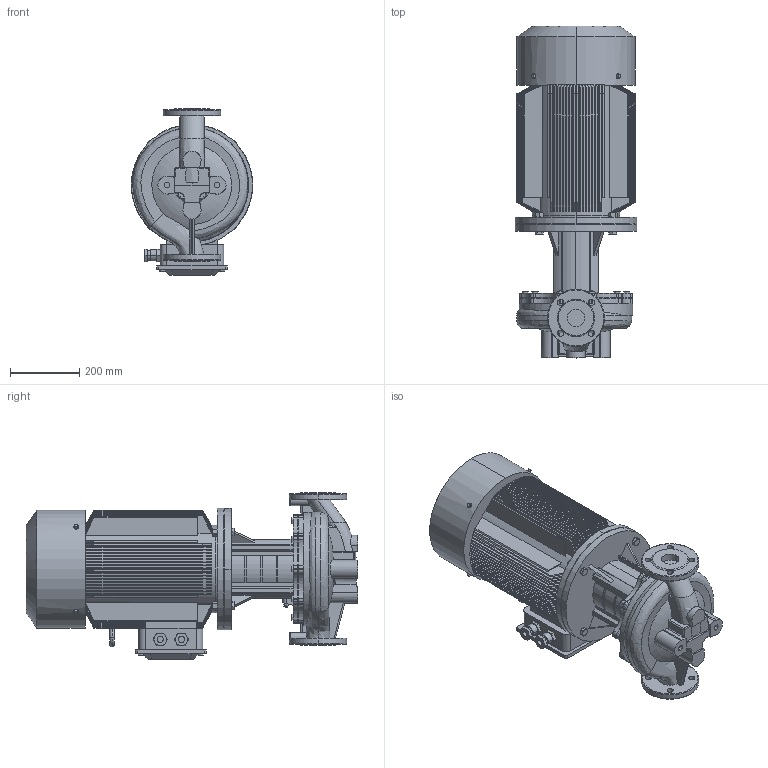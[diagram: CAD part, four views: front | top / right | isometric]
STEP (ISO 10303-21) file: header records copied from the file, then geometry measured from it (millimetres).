
FILE_DESCRIPTION (( 'STEP AP203' ), '1' );
FILE_NAME ('TD50-60G／2.STEP', '2026-09-07T02:20:13', ( '' ), ( '' ), 'SwSTEP 2.0', 'SolidWorks 2020', '' );
FILE_SCHEMA (( 'CONFIG_CONTROL_DESIGN' ));
Products named in the file (1): TD50-60Gㄞ2
Bounding box: 350 x 956 x 480 mm (x, y, z)
Volume: 59975769 mm3; surface area: 3899855.8 mm2
Topology: 1 solids, 7 shells, 1620 faces, 4177 edges, 2638 vertices
Faces by surface type: plane 730, cylinder 426, cone 386, torus 49, bspline 27, sphere 2
Entity records: 68086 total; most frequent: CARTESIAN_POINT 29519, ORIENTED_EDGE 8346, DIRECTION 7773, EDGE_CURVE 4173, AXIS2_PLACEMENT_3D 3084, VERTEX_POINT 2638, EDGE_LOOP 1739, FACE_OUTER_BOUND 1620
